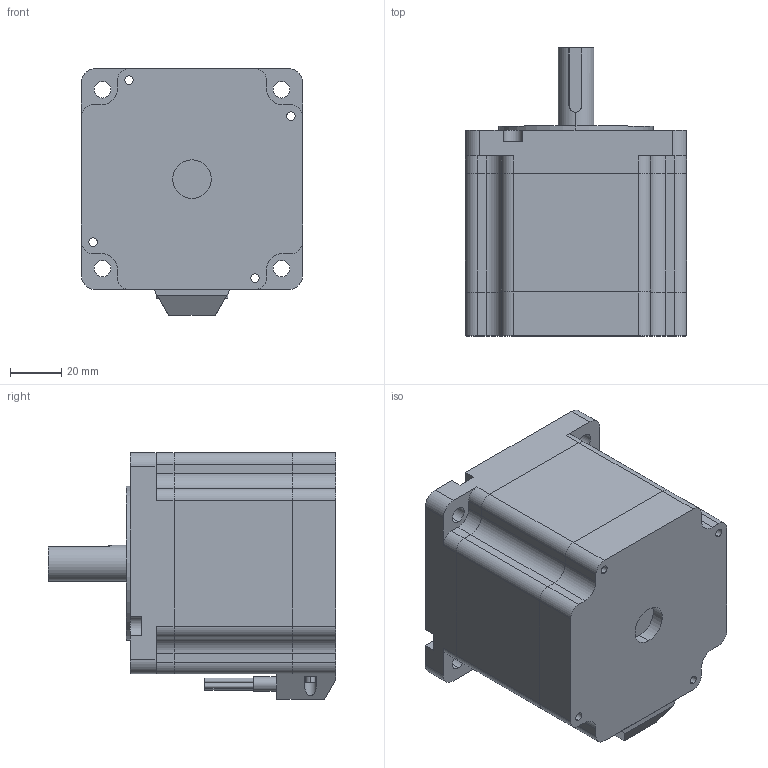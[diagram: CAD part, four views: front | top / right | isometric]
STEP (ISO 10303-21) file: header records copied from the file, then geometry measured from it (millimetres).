
FILE_DESCRIPTION (( 'STEP AP203' ), '1' );
FILE_NAME ('86HS280-60A4-1432-013.STEP', '2025-06-23T01:22:30', ( '微软用户' ), ( '微软中国' ), 'SwSTEP 2.0', 'SolidWorks 2022', '' );
FILE_SCHEMA (( 'CONFIG_CONTROL_DESIGN' ));
Length unit declared in the file: millimetre
Products named in the file (5): 086.001F(60止口）; 14X5JX50酗粣; 086.001B揤盄褲; 86HS80  46H; 86HS280-60A4-1432-013
Assembly tree (4 placements, depth 2):
  86HS280-60A4-1432-013
    86HS80  46H
    086.001F(60止口）
    086.001B揤盄褲
    14X5JX50酗粣
Bounding box: 86 x 112 x 96 mm (x, y, z)
Volume: 541588.7 mm3; surface area: 78118.3 mm2
Topology: 5 solids, 5 shells, 212 faces, 561 edges, 374 vertices
Faces by surface type: cylinder 108, plane 104
Entity records: 7254 total; most frequent: DIRECTION 1206, CARTESIAN_POINT 1195, ORIENTED_EDGE 1122, EDGE_CURVE 561, AXIS2_PLACEMENT_3D 431, VERTEX_POINT 374, VECTOR 344, LINE 344
